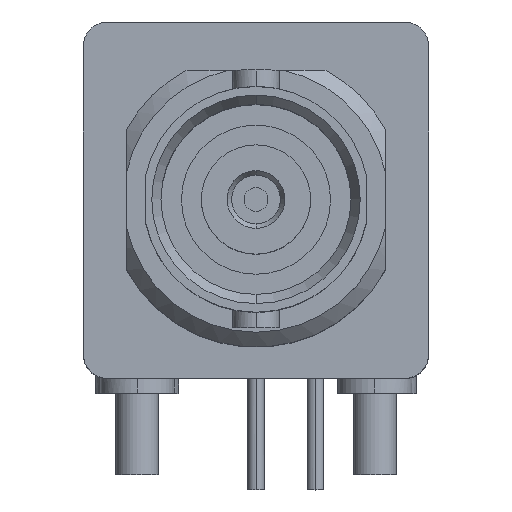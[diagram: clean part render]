
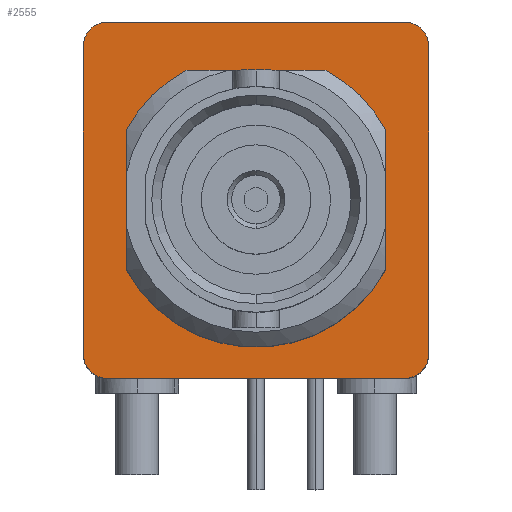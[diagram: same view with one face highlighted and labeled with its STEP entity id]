
A CAD part, top view. The second image highlights one B-rep face of the part: STEP entity #2555.
In plain terms, the highlighted planar face has unit normal (0, 0, 1).
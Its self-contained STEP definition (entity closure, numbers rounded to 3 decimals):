
#406=CARTESIAN_POINT('',(0.,0.,-20.828));
#407=DIRECTION('',(0.,0.,-1.));
#408=DIRECTION('',(-0.88,0.476,0.));
#409=AXIS2_PLACEMENT_3D('',#406,#407,#408);
#415=CARTESIAN_POINT('',(0.,0.,-20.828));
#416=DIRECTION('',(0.,0.,-1.));
#417=DIRECTION('',(0.476,0.88,0.));
#418=AXIS2_PLACEMENT_3D('',#415,#416,#417);
#424=CARTESIAN_POINT('',(0.,0.,-20.828));
#425=DIRECTION('',(0.,0.,-1.));
#426=DIRECTION('',(0.88,-0.476,0.));
#427=AXIS2_PLACEMENT_3D('',#424,#425,#426);
#538=DIRECTION('',(0.,1.,0.));
#539=VECTOR('',#538,5.988);
#540=CARTESIAN_POINT('',(-5.537,-2.994,-20.828));
#541=LINE('',#540,#539);
#542=DIRECTION('',(0.,-1.,0.));
#543=VECTOR('',#542,5.988);
#544=CARTESIAN_POINT('',(5.537,2.994,-20.828));
#545=LINE('',#544,#543);
#546=DIRECTION('',(1.,0.,0.));
#547=VECTOR('',#546,5.988);
#548=CARTESIAN_POINT('',(-2.994,5.537,-20.828));
#549=LINE('',#548,#547);
#550=CARTESIAN_POINT('',(6.363,6.604,-20.828));
#551=DIRECTION('',(0.,0.,1.));
#552=DIRECTION('',(1.,0.,0.));
#553=AXIS2_PLACEMENT_3D('',#550,#551,#552);
#555=CARTESIAN_POINT('',(6.363,-6.604,-20.828));
#556=DIRECTION('',(0.,0.,1.));
#557=DIRECTION('',(0.,-1.,0.));
#558=AXIS2_PLACEMENT_3D('',#555,#556,#557);
#560=CARTESIAN_POINT('',(-6.363,-6.604,-20.828));
#561=DIRECTION('',(0.,0.,1.));
#562=DIRECTION('',(-1.,0.,0.));
#563=AXIS2_PLACEMENT_3D('',#560,#561,#562);
#565=CARTESIAN_POINT('',(-6.363,6.604,-20.828));
#566=DIRECTION('',(0.,0.,1.));
#567=DIRECTION('',(0.,1.,0.));
#568=AXIS2_PLACEMENT_3D('',#565,#566,#567);
#570=DIRECTION('',(1.,0.,0.));
#571=VECTOR('',#570,12.725);
#572=CARTESIAN_POINT('',(-6.363,7.62,-20.828));
#573=LINE('',#572,#571);
#901=DIRECTION('',(1.,0.,0.));
#902=VECTOR('',#901,12.725);
#903=CARTESIAN_POINT('',(-6.363,-7.62,-20.828));
#904=LINE('',#903,#902);
#981=DIRECTION('',(0.,-1.,0.));
#982=VECTOR('',#981,13.208);
#983=CARTESIAN_POINT('',(7.379,6.604,-20.828));
#984=LINE('',#983,#982);
#1131=DIRECTION('',(0.,-1.,0.));
#1132=VECTOR('',#1131,13.208);
#1133=CARTESIAN_POINT('',(-7.379,6.604,-20.828));
#1134=LINE('',#1133,#1132);
#1620=CARTESIAN_POINT('',(2.994,5.537,-20.828));
#1622=VERTEX_POINT('',#1620);
#1628=CARTESIAN_POINT('',(-2.994,5.537,-20.828));
#1630=VERTEX_POINT('',#1628);
#1645=CARTESIAN_POINT('',(5.537,2.994,-20.828));
#1646=VERTEX_POINT('',#1645);
#1842=CARTESIAN_POINT('',(7.379,6.604,-20.828));
#1843=CARTESIAN_POINT('',(6.363,7.62,-20.828));
#1844=VERTEX_POINT('',#1842);
#1845=VERTEX_POINT('',#1843);
#1860=CARTESIAN_POINT('',(6.363,-7.62,-20.828));
#1861=CARTESIAN_POINT('',(7.379,-6.604,-20.828));
#1862=VERTEX_POINT('',#1860);
#1863=VERTEX_POINT('',#1861);
#1870=CARTESIAN_POINT('',(-6.363,7.62,-20.828));
#1871=VERTEX_POINT('',#1870);
#1872=CARTESIAN_POINT('',(-7.379,6.604,-20.828));
#1873=VERTEX_POINT('',#1872);
#1874=CARTESIAN_POINT('',(-7.379,-6.604,-20.828));
#1875=CARTESIAN_POINT('',(-6.363,-7.62,-20.828));
#1876=VERTEX_POINT('',#1874);
#1877=VERTEX_POINT('',#1875);
#1933=CARTESIAN_POINT('',(5.537,-2.994,-20.828));
#1935=VERTEX_POINT('',#1933);
#1937=CARTESIAN_POINT('',(-5.537,-2.994,-20.828));
#1939=VERTEX_POINT('',#1937);
#1940=CARTESIAN_POINT('',(-5.537,2.994,-20.828));
#1941=VERTEX_POINT('',#1940);
#2523=CARTESIAN_POINT('',(-7.379,7.62,-20.828));
#2524=DIRECTION('',(0.,0.,1.));
#2525=DIRECTION('',(0.,-1.,0.));
#2526=AXIS2_PLACEMENT_3D('',#2523,#2524,#2525);
#2527=PLANE('',#2526);
#2529=ORIENTED_EDGE('',*,*,#2528,.F.);
#2531=ORIENTED_EDGE('',*,*,#2530,.T.);
#2533=ORIENTED_EDGE('',*,*,#2532,.F.);
#2535=ORIENTED_EDGE('',*,*,#2534,.F.);
#2537=ORIENTED_EDGE('',*,*,#2536,.F.);
#2539=ORIENTED_EDGE('',*,*,#2538,.F.);
#2541=ORIENTED_EDGE('',*,*,#2540,.F.);
#2543=ORIENTED_EDGE('',*,*,#2542,.T.);
#2544=EDGE_LOOP('',(#2529,#2531,#2533,#2535,#2537,#2539,#2541,#2543));
#2545=FACE_OUTER_BOUND('',#2544,.F.);
#2546=ORIENTED_EDGE('',*,*,#2387,.F.);
#2547=ORIENTED_EDGE('',*,*,#2512,.F.);
#2548=ORIENTED_EDGE('',*,*,#2412,.F.);
#2550=ORIENTED_EDGE('',*,*,#2549,.F.);
#2551=ORIENTED_EDGE('',*,*,#2398,.F.);
#2552=ORIENTED_EDGE('',*,*,#2372,.F.);
#2553=EDGE_LOOP('',(#2546,#2547,#2548,#2550,#2551,#2552));
#2554=FACE_BOUND('',#2553,.F.);
#2555=ADVANCED_FACE('',(#2545,#2554),#2527,.T.);
#410=CIRCLE('',#409,6.295);
#419=CIRCLE('',#418,6.295);
#428=CIRCLE('',#427,6.295);
#554=CIRCLE('',#553,1.016);
#559=CIRCLE('',#558,1.016);
#564=CIRCLE('',#563,1.016);
#569=CIRCLE('',#568,1.016);
#2372=EDGE_CURVE('',#1630,#1622,#549,.T.);
#2387=EDGE_CURVE('',#1941,#1630,#410,.T.);
#2398=EDGE_CURVE('',#1622,#1646,#419,.T.);
#2412=EDGE_CURVE('',#1935,#1939,#428,.T.);
#2512=EDGE_CURVE('',#1939,#1941,#541,.T.);
#2528=EDGE_CURVE('',#1844,#1845,#554,.T.);
#2530=EDGE_CURVE('',#1844,#1863,#984,.T.);
#2532=EDGE_CURVE('',#1862,#1863,#559,.T.);
#2534=EDGE_CURVE('',#1877,#1862,#904,.T.);
#2536=EDGE_CURVE('',#1876,#1877,#564,.T.);
#2538=EDGE_CURVE('',#1873,#1876,#1134,.T.);
#2540=EDGE_CURVE('',#1871,#1873,#569,.T.);
#2542=EDGE_CURVE('',#1871,#1845,#573,.T.);
#2549=EDGE_CURVE('',#1646,#1935,#545,.T.);
